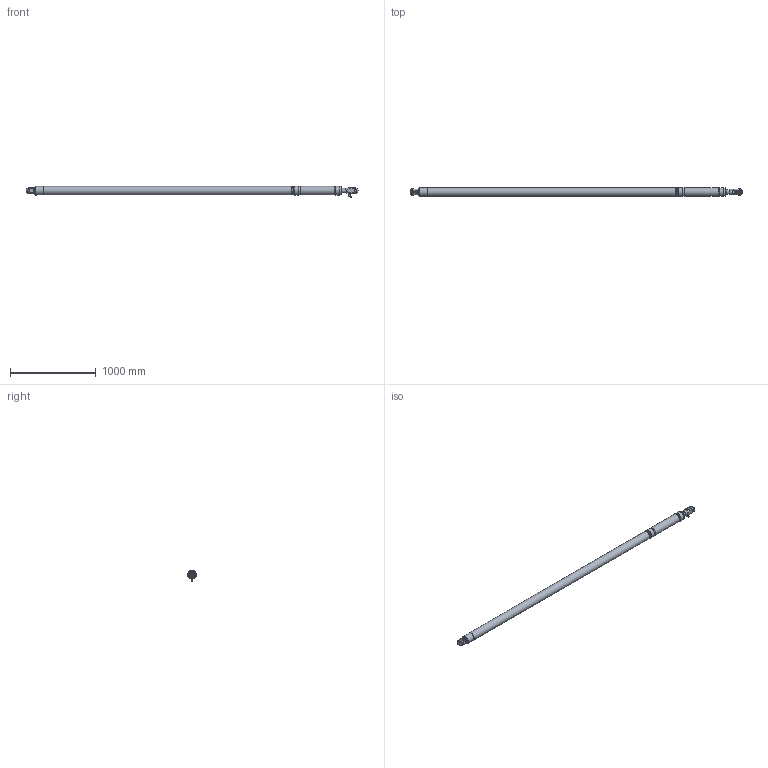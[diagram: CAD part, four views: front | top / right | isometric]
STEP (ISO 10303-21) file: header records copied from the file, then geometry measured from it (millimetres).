
FILE_DESCRIPTION(/* description */ (''),/* implementation_level */ '2;1');
FILE_NAME(/* name */ 'Q:\AA BRAND HYDRAULICS\HYDRAULICS FAMILY DIRECTORY\HYDRAULICS\CYLINDERS\VANGS\ALUMINIUM SINGLE ACTING - STAINLESS ON REQUEST (-0010 To -0150)\VSA-0040-S350-NP-71-L3800\VSA-0040-S350-NP-71-L3800 (Closed).stp',/* time_stamp */ '2018-03-28T11:54:35+01:00',/* author */ ('Lorena'),/* organization */ (''),/* preprocessor_version */ 'ST-DEVELOPER v17',/* originating_system */ 'Autodesk Inventor 2018',/* authorisation */ '');
FILE_SCHEMA (('AUTOMOTIVE_DESIGN { 1 0 10303 214 3 1 1 }'));
Length unit declared in the file: millimetre
Products named in the file (1): VSA-0040-S350-NP-71-L3800 (Closed)
Bounding box: 3860.96 x 102.2 x 134.57 mm (x, y, z)
Volume: 27365814.1 mm3; surface area: 1195754.2 mm2
Topology: 2 solids, 9 shells, 1720 faces, 4579 edges, 3028 vertices
Faces by surface type: plane 976, bspline 576, cylinder 98, cone 62, sphere 4, torus 4
Full cylindrical faces by diameter (mm): 5 x5, 5.1 x1, 5.9 x1, 6 x2, 6.5 x2, 8 x2, 9 x2, 11 x1, 11.157 x1, 11.5 x1, 11.8 x1, 12 x2, 12.157 x1, 12.77 x1, 13 x1, 13.157 x2, 14.5 x2, 15 x1, 16 x2, 18.3 x3, 22 x1, 22.23 x2, 27 x1, 27.75 x2, 35 x1, 37 x1, 51 x1, 84 x2, 87 x1, 97 x2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
Entity records: 62021 total; most frequent: CARTESIAN_POINT 21207, ORIENTED_EDGE 9142, DIRECTION 6016, EDGE_CURVE 4571, VERTEX_POINT 3029, LINE 2928, VECTOR 2928, EDGE_LOOP 1896
